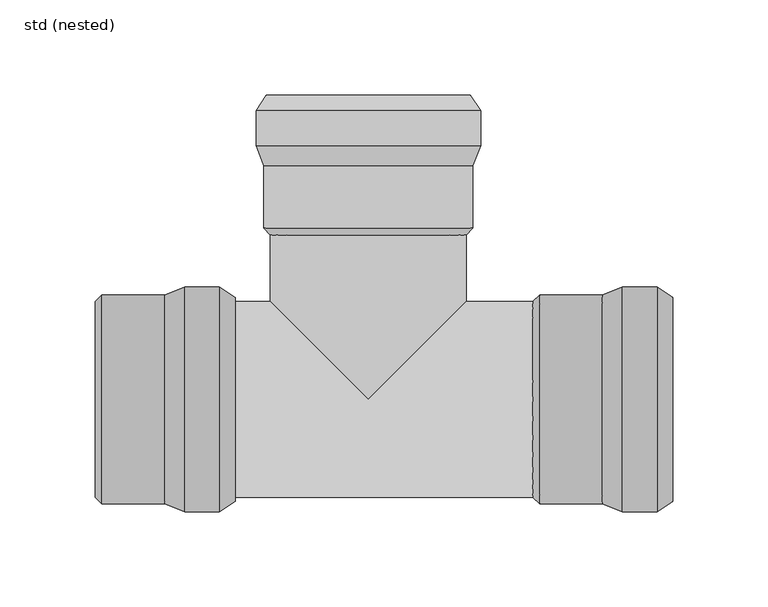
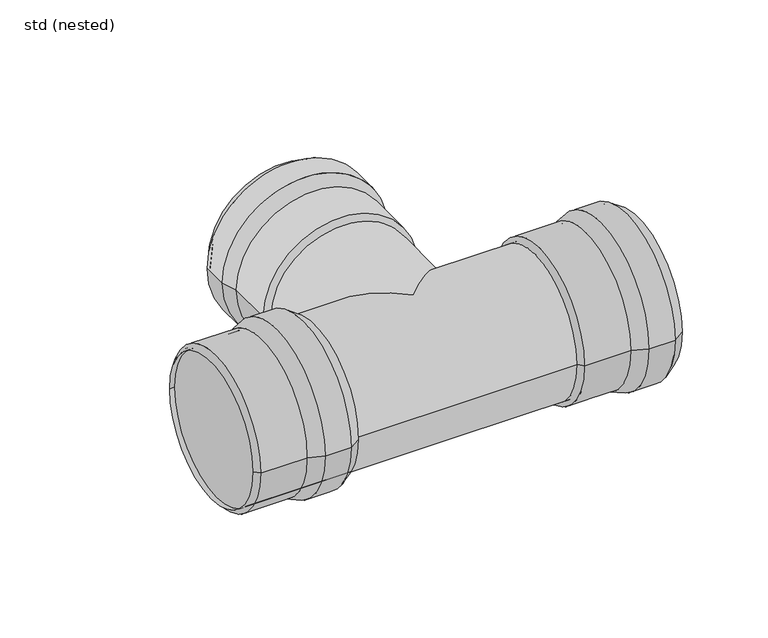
"""IFC4 building model written with IfcOpenShell, lengths in millimetres: pipe fitting geometry, ZZZ_do not use_PIF_ST_UN_GM-X single branch_ACO : std (nested)."""

from ifc_helpers import new_model, si_unit, frame, origin, place, context, project, spatial, polyline, circle_curve, ellipse_curve, source, transform, mapped, element, save
from ifc_brep_helpers import plane_surface, cylinder_surface, revolved_surface, advanced_brep


def std_nested_5e4445c4(model_context):
    return source(origin(), model_context, "Body", "AdvancedBrep", [
        advanced_brep(
        [(-96.5, 59.0, 0.0), (-96.5, -59.0, 0.0), (-78.3, -59.0, 0.0), (-78.3, 59.0, 0.0), (-107.0, 55.0, 0.0), (-107.0, -55.0, 0.0), (-70.0, -53.5, 0.0), (-70.0, 53.5, 0.0), (-140.0, 55.0, 0.0), (-140.0, -55.0, 0.0), (-143.5, 51.5, 0.0), (-143.5, -51.5, 0.0), (-140.0, 51.5, 0.0), (-140.0, -51.5, 0.0), (-106.6319487, 53.0, 0.0), (-106.6319487, -53.0, 0.0), (-140.0, -53.0, 0.0), (-140.0, 53.0, 0.0), (-96.1319487, 57.0, 0.0), (-96.1319487, -57.0, 0.0), (-78.9025117, 57.0, 0.0), (-78.9025117, -57.0, 0.0), (-71.1047607, 51.8328156, 0.0), (-71.1047607, -51.8328156, 0.0)],
        [
            (0, 1, circle_curve(frame((-96.5, 0.0, 0.0), z_axis=(1.0, 0.0, 0.0), x_axis=(0.0, -1.0, 0.0)), 59.0)),
            (1, 2),
            (2, 3, circle_curve(frame((-78.3, 0.0, 0.0), z_axis=(-1.0, 0.0, 0.0), x_axis=(0.0, -1.0, 0.0)), 59.0)),
            (3, 0),
            (1, 0, circle_curve(frame((-96.5, 0.0, 0.0), z_axis=(1.0, 0.0, 0.0), x_axis=(0.0, -1.0, 0.0)), 59.0)),
            (3, 2, circle_curve(frame((-78.3, 0.0, 0.0), z_axis=(-1.0, 0.0, 0.0), x_axis=(0.0, -1.0, 0.0)), 59.0)),
            (4, 5, circle_curve(frame((-107.0, 0.0, 0.0), z_axis=(1.0, 0.0, 0.0), x_axis=(0.0, -1.0, 0.0)), 55.0)),
            (5, 1),
            (0, 4),
            (5, 4, circle_curve(frame((-107.0, 0.0, 0.0), z_axis=(1.0, 0.0, 0.0), x_axis=(0.0, -1.0, 0.0)), 55.0)),
            (2, 6),
            (6, 7, circle_curve(frame((-70.0, 0.0, 0.0), z_axis=(-1.0, 0.0, 0.0), x_axis=(0.0, -1.0, 0.0)), 53.5)),
            (7, 3),
            (7, 6, circle_curve(frame((-70.0, 0.0, 0.0), z_axis=(-1.0, 0.0, 0.0), x_axis=(0.0, -1.0, 0.0)), 53.5)),
            (8, 9, circle_curve(frame((-140.0, 0.0, 0.0), z_axis=(1.0, 0.0, 0.0), x_axis=(0.0, -1.0, 0.0)), 55.0)),
            (9, 5),
            (4, 8),
            (9, 8, circle_curve(frame((-140.0, 0.0, 0.0), z_axis=(1.0, 0.0, 0.0), x_axis=(0.0, -1.0, 0.0)), 55.0)),
            (10, 11, circle_curve(frame((-143.5, 0.0, 0.0), z_axis=(1.0, 0.0, 0.0), x_axis=(0.0, -1.0, 0.0)), 51.5)),
            (11, 9),
            (8, 10),
            (11, 10, circle_curve(frame((-143.5, 0.0, 0.0), z_axis=(1.0, 0.0, 0.0), x_axis=(0.0, -1.0, 0.0)), 51.5)),
            (12, 13, circle_curve(frame((-140.0, 0.0, 0.0), z_axis=(1.0, 0.0, 0.0), x_axis=(0.0, -1.0, 0.0)), 51.5)),
            (13, 11),
            (10, 12),
            (13, 12, circle_curve(frame((-140.0, 0.0, 0.0), z_axis=(1.0, 0.0, 0.0), x_axis=(0.0, -1.0, 0.0)), 51.5)),
            (14, 15, circle_curve(frame((-106.6319487, 0.0, 0.0), z_axis=(1.0, 0.0, 0.0), x_axis=(0.0, -1.0, 0.0)), 53.0)),
            (15, 16),
            (16, 17, circle_curve(frame((-140.0, 0.0, 0.0), z_axis=(-1.0, 0.0, 0.0), x_axis=(0.0, -1.0, 0.0)), 53.0)),
            (17, 14),
            (15, 14, circle_curve(frame((-106.6319487, 0.0, 0.0), z_axis=(1.0, 0.0, 0.0), x_axis=(0.0, -1.0, 0.0)), 53.0)),
            (17, 16, circle_curve(frame((-140.0, 0.0, 0.0), z_axis=(-1.0, 0.0, 0.0), x_axis=(0.0, -1.0, 0.0)), 53.0)),
            (18, 19, circle_curve(frame((-96.1319487, 0.0, 0.0), z_axis=(1.0, 0.0, 0.0), x_axis=(0.0, -1.0, 0.0)), 57.0)),
            (19, 15),
            (14, 18),
            (19, 18, circle_curve(frame((-96.1319487, 0.0, 0.0), z_axis=(1.0, 0.0, 0.0), x_axis=(0.0, -1.0, 0.0)), 57.0)),
            (20, 21, circle_curve(frame((-78.9025117, 0.0, 0.0), z_axis=(1.0, 0.0, 0.0), x_axis=(0.0, -1.0, 0.0)), 57.0)),
            (21, 19),
            (18, 20),
            (21, 20, circle_curve(frame((-78.9025117, 0.0, 0.0), z_axis=(1.0, 0.0, 0.0), x_axis=(0.0, -1.0, 0.0)), 57.0)),
            (22, 23, circle_curve(frame((-71.1047607, 0.0, 0.0), z_axis=(1.0, 0.0, 0.0), x_axis=(0.0, -1.0, 0.0)), 51.8328156)),
            (23, 21),
            (20, 22),
            (23, 22, circle_curve(frame((-71.1047607, 0.0, 0.0), z_axis=(1.0, 0.0, 0.0), x_axis=(0.0, -1.0, 0.0)), 51.8328156)),
            (6, 23),
            (22, 7),
            (16, 13),
            (12, 17),
        ],
        [
            cylinder_surface(frame((-73.3555883, 0.0, 0.0), z_axis=(-1.0, 0.0, 0.0), x_axis=(0.0, -1.0, 0.0)), 59.0),
            revolved_surface(polyline([(-96.5, -59.0, 0.0), (-107.0, -55.0, 0.0)]), (-73.3555883, 0.0, 0.0), (-1.0, 0.0, 0.0)),
            revolved_surface(polyline([(-70.0, -53.5, 0.0), (-78.3, -59.0, 0.0)]), (-73.3555883, 0.0, 0.0), (-1.0, 0.0, 0.0)),
            cylinder_surface(frame((-73.3555883, 0.0, 0.0), z_axis=(-1.0, 0.0, 0.0), x_axis=(0.0, -1.0, 0.0)), 55.0),
            revolved_surface(polyline([(-140.0, -55.0, 0.0), (-143.5, -51.5, 0.0)]), (-73.3555883, 0.0, 0.0), (-1.0, 0.0, 0.0)),
            revolved_surface(polyline([(-143.5, -51.5, 0.0), (-140.0, -51.5, 0.0)]), (-73.3555883, 0.0, 0.0), (-1.0, 0.0, 0.0)),
            revolved_surface(polyline([(-140.0, -53.0, 0.0), (-106.6319487, -53.0, 0.0)]), (-73.3555883, 0.0, 0.0), (-1.0, 0.0, 0.0)),
            revolved_surface(polyline([(-106.6319487, -53.0, 0.0), (-96.1319487, -57.0, 0.0)]), (-73.3555883, 0.0, 0.0), (-1.0, 0.0, 0.0)),
            revolved_surface(polyline([(-96.1319487, -57.0, 0.0), (-78.9025117, -57.0, 0.0)]), (-73.3555883, 0.0, 0.0), (-1.0, 0.0, 0.0)),
            revolved_surface(polyline([(-78.9025117, -57.0, 0.0), (-71.1047607, -51.8328156, 0.0)]), (-73.3555883, 0.0, 0.0), (-1.0, 0.0, 0.0)),
            revolved_surface(polyline([(-71.1047607, -51.8328156, 0.0), (-70.0, -53.5, 0.0)]), (-73.3555883, 0.0, 0.0), (-1.0, 0.0, 0.0)),
            plane_surface(frame((-140.0, 0.0, 0.0), z_axis=(1.0, 0.0, 0.0), x_axis=(0.0, -1.0, 0.0))),
        ],
        [
            (0, [[1, 2, 3, 4]]),
            (0, [[5, -4, 6, -2]]),
            (1, [[7, 8, -1, 9]]),
            (1, [[10, -9, -5, -8]]),
            (2, [[-3, 11, 12, 13]]),
            (2, [[-6, -13, 14, -11]]),
            (3, [[15, 16, -7, 17]]),
            (3, [[18, -17, -10, -16]]),
            (4, [[19, 20, -15, 21]]),
            (4, [[22, -21, -18, -20]]),
            (5, [[23, 24, -19, 25]]),
            (5, [[26, -25, -22, -24]]),
            (6, [[27, 28, 29, 30]]),
            (6, [[31, -30, 32, -28]]),
            (7, [[33, 34, -27, 35]]),
            (7, [[36, -35, -31, -34]]),
            (8, [[37, 38, -33, 39]]),
            (8, [[40, -39, -36, -38]]),
            (9, [[41, 42, -37, 43]]),
            (9, [[44, -43, -40, -42]]),
            (10, [[-12, 45, -41, 46]]),
            (10, [[-14, -46, -44, -45]]),
            (11, [[-29, 47, -23, 48]]),
            (11, [[-32, -48, -26, -47]]),
        ],
    ),
        advanced_brep(
        [(133.5, -59.0, 0.0), (133.5, 59.0, 0.0), (151.7, 59.0, 0.0), (151.7, -59.0, 0.0), (123.0, -55.0, 0.0), (123.0, 55.0, 0.0), (160.0, 53.5, 0.0), (160.0, -53.5, 0.0), (90.0, -55.0, 0.0), (90.0, 55.0, 0.0), (86.5, -51.5, 0.0), (86.5, 51.5, 0.0), (90.0, -51.5, 0.0), (90.0, 51.5, 0.0), (123.3680513, -53.0, 0.0), (123.3680513, 53.0, 0.0), (90.0, 53.0, 0.0), (90.0, -53.0, 0.0), (133.8680513, -57.0, 0.0), (133.8680513, 57.0, 0.0), (151.0974883, -57.0, 0.0), (151.0974883, 57.0, 0.0), (158.8952393, -51.8328156, 0.0), (158.8952393, 51.8328156, 0.0)],
        [
            (0, 1, circle_curve(frame((133.5, 0.0, 0.0), z_axis=(1.0, 0.0, 0.0), x_axis=(0.0, 1.0, 0.0)), 59.0)),
            (1, 2),
            (2, 3, circle_curve(frame((151.7, 0.0, 0.0), z_axis=(-1.0, 0.0, 0.0), x_axis=(0.0, 1.0, 0.0)), 59.0)),
            (3, 0),
            (1, 0, circle_curve(frame((133.5, 0.0, 0.0), z_axis=(1.0, 0.0, 0.0), x_axis=(0.0, 1.0, 0.0)), 59.0)),
            (3, 2, circle_curve(frame((151.7, 0.0, 0.0), z_axis=(-1.0, 0.0, 0.0), x_axis=(0.0, 1.0, 0.0)), 59.0)),
            (4, 5, circle_curve(frame((123.0, 0.0, 0.0), z_axis=(1.0, 0.0, 0.0), x_axis=(0.0, 1.0, 0.0)), 55.0)),
            (5, 1),
            (0, 4),
            (5, 4, circle_curve(frame((123.0, 0.0, 0.0), z_axis=(1.0, 0.0, 0.0), x_axis=(0.0, 1.0, 0.0)), 55.0)),
            (2, 6),
            (6, 7, circle_curve(frame((160.0, 0.0, 0.0), z_axis=(-1.0, 0.0, 0.0), x_axis=(0.0, 1.0, 0.0)), 53.5)),
            (7, 3),
            (7, 6, circle_curve(frame((160.0, 0.0, 0.0), z_axis=(-1.0, 0.0, 0.0), x_axis=(0.0, 1.0, 0.0)), 53.5)),
            (8, 9, circle_curve(frame((90.0, 0.0, 0.0), z_axis=(1.0, 0.0, 0.0), x_axis=(0.0, 1.0, 0.0)), 55.0)),
            (9, 5),
            (4, 8),
            (9, 8, circle_curve(frame((90.0, 0.0, 0.0), z_axis=(1.0, 0.0, 0.0), x_axis=(0.0, 1.0, 0.0)), 55.0)),
            (10, 11, circle_curve(frame((86.5, 0.0, 0.0), z_axis=(1.0, 0.0, 0.0), x_axis=(0.0, 1.0, 0.0)), 51.5)),
            (11, 9),
            (8, 10),
            (11, 10, circle_curve(frame((86.5, 0.0, 0.0), z_axis=(1.0, 0.0, 0.0), x_axis=(0.0, 1.0, 0.0)), 51.5)),
            (12, 13, circle_curve(frame((90.0, 0.0, 0.0), z_axis=(1.0, 0.0, 0.0), x_axis=(0.0, 1.0, 0.0)), 51.5)),
            (13, 11),
            (10, 12),
            (13, 12, circle_curve(frame((90.0, 0.0, 0.0), z_axis=(1.0, 0.0, 0.0), x_axis=(0.0, 1.0, 0.0)), 51.5)),
            (14, 15, circle_curve(frame((123.3680513, 0.0, 0.0), z_axis=(1.0, 0.0, 0.0), x_axis=(0.0, 1.0, 0.0)), 53.0)),
            (15, 16),
            (16, 17, circle_curve(frame((90.0, 0.0, 0.0), z_axis=(-1.0, 0.0, 0.0), x_axis=(0.0, 1.0, 0.0)), 53.0)),
            (17, 14),
            (15, 14, circle_curve(frame((123.3680513, 0.0, 0.0), z_axis=(1.0, 0.0, 0.0), x_axis=(0.0, 1.0, 0.0)), 53.0)),
            (17, 16, circle_curve(frame((90.0, 0.0, 0.0), z_axis=(-1.0, 0.0, 0.0), x_axis=(0.0, 1.0, 0.0)), 53.0)),
            (18, 19, circle_curve(frame((133.8680513, 0.0, 0.0), z_axis=(1.0, 0.0, 0.0), x_axis=(0.0, 1.0, 0.0)), 57.0)),
            (19, 15),
            (14, 18),
            (19, 18, circle_curve(frame((133.8680513, 0.0, 0.0), z_axis=(1.0, 0.0, 0.0), x_axis=(0.0, 1.0, 0.0)), 57.0)),
            (20, 21, circle_curve(frame((151.0974883, 0.0, 0.0), z_axis=(1.0, 0.0, 0.0), x_axis=(0.0, 1.0, 0.0)), 57.0)),
            (21, 19),
            (18, 20),
            (21, 20, circle_curve(frame((151.0974883, 0.0, 0.0), z_axis=(1.0, 0.0, 0.0), x_axis=(0.0, 1.0, 0.0)), 57.0)),
            (22, 23, circle_curve(frame((158.8952393, 0.0, 0.0), z_axis=(1.0, 0.0, 0.0), x_axis=(0.0, 1.0, 0.0)), 51.8328156)),
            (23, 21),
            (20, 22),
            (23, 22, circle_curve(frame((158.8952393, 0.0, 0.0), z_axis=(1.0, 0.0, 0.0), x_axis=(0.0, 1.0, 0.0)), 51.8328156)),
            (6, 23),
            (22, 7),
            (16, 13),
            (12, 17),
        ],
        [
            cylinder_surface(frame((156.6444117, 0.0, 0.0), z_axis=(-1.0, 0.0, 0.0), x_axis=(0.0, 1.0, 0.0)), 59.0),
            revolved_surface(polyline([(133.5, 59.0, 0.0), (123.0, 55.0, 0.0)]), (156.6444117, 0.0, 0.0), (-1.0, 0.0, 0.0)),
            revolved_surface(polyline([(160.0, 53.5, 0.0), (151.7, 59.0, 0.0)]), (156.6444117, 0.0, 0.0), (-1.0, 0.0, 0.0)),
            cylinder_surface(frame((156.6444117, 0.0, 0.0), z_axis=(-1.0, 0.0, 0.0), x_axis=(0.0, 1.0, 0.0)), 55.0),
            revolved_surface(polyline([(90.0, 55.0, 0.0), (86.5, 51.5, 0.0)]), (156.6444117, 0.0, 0.0), (-1.0, 0.0, 0.0)),
            revolved_surface(polyline([(86.5, 51.5, 0.0), (90.0, 51.5, 0.0)]), (156.6444117, 0.0, 0.0), (-1.0, 0.0, 0.0)),
            revolved_surface(polyline([(90.0, 53.0, 0.0), (123.3680513, 53.0, 0.0)]), (156.6444117, 0.0, 0.0), (-1.0, 0.0, 0.0)),
            revolved_surface(polyline([(123.3680513, 53.0, 0.0), (133.8680513, 57.0, 0.0)]), (156.6444117, 0.0, 0.0), (-1.0, 0.0, 0.0)),
            revolved_surface(polyline([(133.8680513, 57.0, 0.0), (151.0974883, 57.0, 0.0)]), (156.6444117, 0.0, 0.0), (-1.0, 0.0, 0.0)),
            revolved_surface(polyline([(151.0974883, 57.0, 0.0), (158.8952393, 51.8328156, 0.0)]), (156.6444117, 0.0, 0.0), (-1.0, 0.0, 0.0)),
            revolved_surface(polyline([(158.8952393, 51.8328156, 0.0), (160.0, 53.5, 0.0)]), (156.6444117, 0.0, 0.0), (-1.0, 0.0, 0.0)),
            plane_surface(frame((90.0, 0.0, 0.0), z_axis=(1.0, 0.0, 0.0), x_axis=(0.0, 1.0, 0.0))),
        ],
        [
            (0, [[1, 2, 3, 4]]),
            (0, [[5, -4, 6, -2]]),
            (1, [[7, 8, -1, 9]]),
            (1, [[10, -9, -5, -8]]),
            (2, [[-3, 11, 12, 13]]),
            (2, [[-6, -13, 14, -11]]),
            (3, [[15, 16, -7, 17]]),
            (3, [[18, -17, -10, -16]]),
            (4, [[19, 20, -15, 21]]),
            (4, [[22, -21, -18, -20]]),
            (5, [[23, 24, -19, 25]]),
            (5, [[26, -25, -22, -24]]),
            (6, [[27, 28, 29, 30]]),
            (6, [[31, -30, 32, -28]]),
            (7, [[33, 34, -27, 35]]),
            (7, [[36, -35, -31, -34]]),
            (8, [[37, 38, -33, 39]]),
            (8, [[40, -39, -36, -38]]),
            (9, [[41, 42, -37, 43]]),
            (9, [[44, -43, -40, -42]]),
            (10, [[-12, 45, -41, 46]]),
            (10, [[-14, -46, -44, -45]]),
            (11, [[-29, 47, -23, 48]]),
            (11, [[-32, -48, -26, -47]]),
        ],
    ),
        advanced_brep(
        [(59.0003982, 133.499824, 0.0), (-58.9996018, 133.500176, 0.0), (-58.9995475, 151.700176, 0.0), (59.0004525, 151.699824, 0.0), (55.0003669, 122.9998359, 0.0), (-54.9996331, 123.0001641, 0.0), (-53.4995227, 160.0001596, 0.0), (53.5004773, 159.9998404, 0.0), (55.0002685, 89.9998359, 0.0), (-54.9997315, 90.0001641, 0.0), (51.500258, 86.4998464, 0.0), (-51.499742, 86.5001536, 0.0), (51.5002685, 89.9998464, 0.0), (-51.4997315, 90.0001536, 0.0), (53.000368, 123.3678932, 0.0), (-52.999632, 123.3682094, 0.0), (-52.9997315, 90.0001581, 0.0), (53.0002685, 89.9998419, 0.0), (57.0003993, 133.8678812, 0.0), (-56.9996007, 133.8682213, 0.0), (57.0004507, 151.0973183, 0.0), (-56.9995493, 151.0976583, 0.0), (51.8332896, 158.8950847, 0.0), (-51.8323416, 158.8953939, 0.0)],
        [
            (0, 1, circle_curve(frame((0.0003982, 133.5, 0.0), z_axis=(2.9830069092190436e-06, 0.9999999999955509, 0.0), x_axis=(-0.9999999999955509, 2.9830069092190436e-06, 0.0)), 59.0)),
            (1, 2),
            (2, 3, circle_curve(frame((0.0004525, 151.7, 0.0), z_axis=(-2.9830069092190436e-06, -0.9999999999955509, 0.0), x_axis=(-0.9999999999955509, 2.9830069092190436e-06, 0.0)), 59.0)),
            (3, 0),
            (1, 0, circle_curve(frame((0.0003982, 133.5, 0.0), z_axis=(2.9830069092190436e-06, 0.9999999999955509, 0.0), x_axis=(-0.9999999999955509, 2.9830069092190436e-06, 0.0)), 59.0)),
            (3, 2, circle_curve(frame((0.0004525, 151.7, 0.0), z_axis=(-2.9830069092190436e-06, -0.9999999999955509, 0.0), x_axis=(-0.9999999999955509, 2.9830069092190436e-06, 0.0)), 59.0)),
            (4, 5, circle_curve(frame((0.0003669, 123.0, 0.0), z_axis=(2.9830069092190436e-06, 0.9999999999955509, 0.0), x_axis=(-0.9999999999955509, 2.9830069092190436e-06, 0.0)), 55.0)),
            (5, 1),
            (0, 4),
            (5, 4, circle_curve(frame((0.0003669, 123.0, 0.0), z_axis=(2.9830069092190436e-06, 0.9999999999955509, 0.0), x_axis=(-0.9999999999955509, 2.9830069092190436e-06, 0.0)), 55.0)),
            (2, 6),
            (6, 7, circle_curve(frame((0.0004773, 160.0, 0.0), z_axis=(-2.9830069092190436e-06, -0.9999999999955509, 0.0), x_axis=(-0.9999999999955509, 2.9830069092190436e-06, 0.0)), 53.5)),
            (7, 3),
            (7, 6, circle_curve(frame((0.0004773, 160.0, 0.0), z_axis=(-2.9830069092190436e-06, -0.9999999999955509, 0.0), x_axis=(-0.9999999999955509, 2.9830069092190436e-06, 0.0)), 53.5)),
            (8, 9, circle_curve(frame((0.0002685, 90.0, 0.0), z_axis=(2.9830069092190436e-06, 0.9999999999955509, 0.0), x_axis=(-0.9999999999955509, 2.9830069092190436e-06, 0.0)), 55.0)),
            (9, 5),
            (4, 8),
            (9, 8, circle_curve(frame((0.0002685, 90.0, 0.0), z_axis=(2.9830069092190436e-06, 0.9999999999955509, 0.0), x_axis=(-0.9999999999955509, 2.9830069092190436e-06, 0.0)), 55.0)),
            (10, 11, circle_curve(frame((0.000258, 86.5, 0.0), z_axis=(2.9830069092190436e-06, 0.9999999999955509, 0.0), x_axis=(-0.9999999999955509, 2.9830069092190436e-06, 0.0)), 51.5)),
            (11, 9),
            (8, 10),
            (11, 10, circle_curve(frame((0.000258, 86.5, 0.0), z_axis=(2.9830069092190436e-06, 0.9999999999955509, 0.0), x_axis=(-0.9999999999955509, 2.9830069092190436e-06, 0.0)), 51.5)),
            (12, 13, circle_curve(frame((0.0002685, 90.0, 0.0), z_axis=(2.9830069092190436e-06, 0.9999999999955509, 0.0), x_axis=(-0.9999999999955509, 2.9830069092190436e-06, 0.0)), 51.5)),
            (13, 11),
            (10, 12),
            (13, 12, circle_curve(frame((0.0002685, 90.0, 0.0), z_axis=(2.9830069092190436e-06, 0.9999999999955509, 0.0), x_axis=(-0.9999999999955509, 2.9830069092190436e-06, 0.0)), 51.5)),
            (14, 15, circle_curve(frame((0.000368, 123.3680513, 0.0), z_axis=(2.9830069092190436e-06, 0.9999999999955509, 0.0), x_axis=(-0.9999999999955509, 2.9830069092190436e-06, 0.0)), 53.0)),
            (15, 16),
            (16, 17, circle_curve(frame((0.0002685, 90.0, 0.0), z_axis=(-2.9830069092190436e-06, -0.9999999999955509, 0.0), x_axis=(-0.9999999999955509, 2.9830069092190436e-06, 0.0)), 53.0)),
            (17, 14),
            (15, 14, circle_curve(frame((0.000368, 123.3680513, 0.0), z_axis=(2.9830069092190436e-06, 0.9999999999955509, 0.0), x_axis=(-0.9999999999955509, 2.9830069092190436e-06, 0.0)), 53.0)),
            (17, 16, circle_curve(frame((0.0002685, 90.0, 0.0), z_axis=(-2.9830069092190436e-06, -0.9999999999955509, 0.0), x_axis=(-0.9999999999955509, 2.9830069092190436e-06, 0.0)), 53.0)),
            (18, 19, circle_curve(frame((0.0003993, 133.8680513, 0.0), z_axis=(2.9830069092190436e-06, 0.9999999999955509, 0.0), x_axis=(-0.9999999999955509, 2.9830069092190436e-06, 0.0)), 57.0)),
            (19, 15),
            (14, 18),
            (19, 18, circle_curve(frame((0.0003993, 133.8680513, 0.0), z_axis=(2.9830069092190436e-06, 0.9999999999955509, 0.0), x_axis=(-0.9999999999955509, 2.9830069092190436e-06, 0.0)), 57.0)),
            (20, 21, circle_curve(frame((0.0004507, 151.0974883, 0.0), z_axis=(2.9830069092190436e-06, 0.9999999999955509, 0.0), x_axis=(-0.9999999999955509, 2.9830069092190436e-06, 0.0)), 57.0)),
            (21, 19),
            (18, 20),
            (21, 20, circle_curve(frame((0.0004507, 151.0974883, 0.0), z_axis=(2.9830069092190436e-06, 0.9999999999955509, 0.0), x_axis=(-0.9999999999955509, 2.9830069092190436e-06, 0.0)), 57.0)),
            (22, 23, circle_curve(frame((0.000474, 158.8952393, 0.0), z_axis=(2.9830069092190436e-06, 0.9999999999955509, 0.0), x_axis=(-0.9999999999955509, 2.9830069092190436e-06, 0.0)), 51.8328156)),
            (23, 21),
            (20, 22),
            (23, 22, circle_curve(frame((0.000474, 158.8952393, 0.0), z_axis=(2.9830069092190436e-06, 0.9999999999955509, 0.0), x_axis=(-0.9999999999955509, 2.9830069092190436e-06, 0.0)), 51.8328156)),
            (6, 23),
            (22, 7),
            (16, 13),
            (12, 17),
        ],
        [
            cylinder_surface(frame((0.0004673, 156.6444117, 0.0), z_axis=(-2.9830069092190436e-06, -0.9999999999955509, 0.0), x_axis=(-0.9999999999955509, 2.9830069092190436e-06, 0.0)), 59.0),
            revolved_surface(polyline([(-58.9996018, 133.500176, 0.0), (-54.9996331, 123.0001641, 0.0)]), (0.0004673, 156.6444117, 0.0), (-2.9830069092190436e-06, -0.9999999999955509, 0.0)),
            revolved_surface(polyline([(-53.4995227, 160.0001596, 0.0), (-58.9995475, 151.700176, 0.0)]), (0.0004673, 156.6444117, 0.0), (-2.9830069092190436e-06, -0.9999999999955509, 0.0)),
            cylinder_surface(frame((0.0004673, 156.6444117, 0.0), z_axis=(-2.9830069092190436e-06, -0.9999999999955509, 0.0), x_axis=(-0.9999999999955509, 2.9830069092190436e-06, 0.0)), 55.0),
            revolved_surface(polyline([(-54.9997315, 90.0001641, 0.0), (-51.499742, 86.5001536, 0.0)]), (0.0004673, 156.6444117, 0.0), (-2.9830069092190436e-06, -0.9999999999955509, 0.0)),
            revolved_surface(polyline([(-51.499741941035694, 86.50015359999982, 0.0), (-51.499731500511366, 90.00015364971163, 0.0)]), (0.0004673, 156.6444117, 0.0), (-2.9830069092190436e-06, -0.9999999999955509, 0.0)),
            revolved_surface(polyline([(-52.999731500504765, 90.00015809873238, 0.0), (-52.99963196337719, 123.36820939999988, 0.0)]), (0.0004673, 156.6444117, 0.0), (-2.9830069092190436e-06, -0.9999999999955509, 0.0)),
            revolved_surface(polyline([(-52.999632, 123.3682094, 0.0), (-56.9996007, 133.8682213, 0.0)]), (0.0004673, 156.6444117, 0.0), (-2.9830069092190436e-06, -0.9999999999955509, 0.0)),
            revolved_surface(polyline([(-56.99960064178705, 133.86822126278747, 0.0), (-56.99954924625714, 151.0976583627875, 0.0)]), (0.0004673, 156.6444117, 0.0), (-2.9830069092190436e-06, -0.9999999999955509, 0.0)),
            revolved_surface(polyline([(-56.9995493, 151.0976583, 0.0), (-51.8323416, 158.8953939, 0.0)]), (0.0004673, 156.6444117, 0.0), (-2.9830069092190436e-06, -0.9999999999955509, 0.0)),
            revolved_surface(polyline([(-51.8323416, 158.8953939, 0.0), (-53.4995227, 160.0001596, 0.0)]), (0.0004673, 156.6444117, 0.0), (-2.9830069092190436e-06, -0.9999999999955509, 0.0)),
            plane_surface(frame((0.0002685, 90.0, 0.0), z_axis=(2.9830069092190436e-06, 0.9999999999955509, 0.0), x_axis=(-0.9999999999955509, 2.9830069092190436e-06, 0.0))),
        ],
        [
            (0, [[1, 2, 3, 4]]),
            (0, [[5, -4, 6, -2]]),
            (1, [[7, 8, -1, 9]]),
            (1, [[10, -9, -5, -8]]),
            (2, [[-3, 11, 12, 13]]),
            (2, [[-6, -13, 14, -11]]),
            (3, [[15, 16, -7, 17]]),
            (3, [[18, -17, -10, -16]]),
            (4, [[19, 20, -15, 21]]),
            (4, [[22, -21, -18, -20]]),
            (5, [[23, 24, -19, 25]]),
            (5, [[26, -25, -22, -24]]),
            (6, [[27, 28, 29, 30]]),
            (6, [[31, -30, 32, -28]]),
            (7, [[33, 34, -27, 35]]),
            (7, [[36, -35, -31, -34]]),
            (8, [[37, 38, -33, 39]]),
            (8, [[40, -39, -36, -38]]),
            (9, [[41, 42, -37, 43]]),
            (9, [[44, -43, -40, -42]]),
            (10, [[-12, 45, -41, 46]]),
            (10, [[-14, -46, -44, -45]]),
            (11, [[-29, 47, -23, 48]]),
            (11, [[-32, -48, -26, -47]]),
        ],
    ),
        advanced_brep(
        [(90.0, -51.5, 0.0), (90.0, 51.5, 0.0), (-140.0, -51.5, 0.0), (-140.0, 51.5, 0.0), (-51.4998464, 51.5, 0.0), (0.0, 0.0, -51.5), (51.5001536, 51.5, 0.0), (0.0, 0.0, 51.5), (51.5002685, 89.9998464, 0.0), (-51.4997315, 90.0001536, 0.0)],
        [
            (0, 1, circle_curve(frame((90.0, 0.0, 0.0), z_axis=(1.0, 0.0, 0.0), x_axis=(0.0, 1.0, 0.0)), 51.5)),
            (1, 0, circle_curve(frame((90.0, 0.0, 0.0), z_axis=(1.0, 0.0, 0.0), x_axis=(0.0, 1.0, 0.0)), 51.5)),
            (2, 3, circle_curve(frame((-140.0, 0.0, 0.0), z_axis=(-1.0, 0.0, 0.0), x_axis=(0.0, 1.0, 0.0)), 51.5)),
            (3, 2, circle_curve(frame((-140.0, 0.0, 0.0), z_axis=(-1.0, 0.0, 0.0), x_axis=(0.0, 1.0, 0.0)), 51.5)),
            (0, 2),
            (3, 4),
            (4, 5, ellipse_curve(frame((0.0, 0.0, 0.0), z_axis=(-0.7071078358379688, -0.7071057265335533, 0.0), x_axis=(0.7071057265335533, -0.7071078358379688, 0.0)), 72.8318898, 51.5)),
            (5, 6, ellipse_curve(frame((0.0, 0.0, 0.0), z_axis=(0.7071057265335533, -0.7071078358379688, 0.0), x_axis=(0.7071078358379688, 0.7071057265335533, 0.0)), 72.8321071, 51.5)),
            (6, 1),
            (6, 7, ellipse_curve(frame((0.0, 0.0, 0.0), z_axis=(0.7071057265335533, -0.7071078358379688, 0.0), x_axis=(0.7071078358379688, 0.7071057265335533, 0.0)), 72.8321071, 51.5)),
            (7, 4, ellipse_curve(frame((0.0, 0.0, 0.0), z_axis=(-0.7071078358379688, -0.7071057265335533, 0.0), x_axis=(0.7071057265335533, -0.7071078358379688, 0.0)), 72.8318898, 51.5)),
            (8, 9, circle_curve(frame((0.0002685, 90.0, 0.0), z_axis=(2.9830069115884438e-06, 0.9999999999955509, 0.0), x_axis=(-0.9999999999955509, 2.9830069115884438e-06, 0.0)), 51.5)),
            (9, 8, circle_curve(frame((0.0002685, 90.0, 0.0), z_axis=(2.9830069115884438e-06, 0.9999999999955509, 0.0), x_axis=(-0.9999999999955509, 2.9830069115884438e-06, 0.0)), 51.5)),
            (9, 4),
            (6, 8),
        ],
        [
            plane_surface(frame((90.0, 51.5, 0.0), z_axis=(1.0, 0.0, 0.0), x_axis=(0.0, 0.0, 1.0))),
            plane_surface(frame((-140.0, 51.5, 0.0), z_axis=(-1.0, 0.0, 0.0), x_axis=(0.0, 0.0, -1.0))),
            cylinder_surface(frame((-140.0, 0.0, 0.0), z_axis=(1.0, 0.0, 0.0), x_axis=(0.0, 1.0, 0.0)), 51.5),
            plane_surface(frame((0.0002685, 90.0, 0.0), z_axis=(2.983006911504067e-06, 0.9999999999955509, 0.0), x_axis=(0.0, 0.0, 1.0))),
            cylinder_surface(frame((0.0, 0.0, 0.0), z_axis=(-2.9830069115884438e-06, -0.9999999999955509, 0.0), x_axis=(-0.9999999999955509, 2.9830069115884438e-06, 0.0)), 51.5),
        ],
        [
            (0, [[1, 2]]),
            (1, [[3, 4]]),
            (2, [[-1, 5, -4, 6, 7, 8, 9]]),
            (2, [[-2, -9, 10, 11, -6, -3, -5]]),
            (3, [[12, 13]]),
            (4, [[-13, 14, -11, -10, 15]]),
            (4, [[-12, -15, -8, -7, -14]]),
        ],
    ),
    ])


if __name__ == "__main__":
    model = new_model("IFC4")
    model_context = context("Model", 3, world=origin())
    ifc_project = project(units=[si_unit("LENGTHUNIT", "METRE", prefix="MILLI")], contexts=[model_context])
    site = spatial("IfcSite", under=ifc_project)
    building = spatial("IfcBuilding", under=site)
    placement = place(None, origin())
    std_nested_shape = std_nested_5e4445c4(model_context)
    element("IfcPipeFitting", 1, ObjectType="ZZZ_do not use_PIF_ST_UN_GM-X single branch_ACO : std (nested)", at=placement, inside=building, context=model_context, shape_type="MappedRepresentation", body=[
        mapped(std_nested_shape, transform((0.0, 0.0, 0.0), x_axis=(1.0, 0.0, 0.0), y_axis=(0.0, 1.0, 0.0), z_axis=(0.0, 0.0, 1.0))),
    ])
    save(model, "model.ifc")
